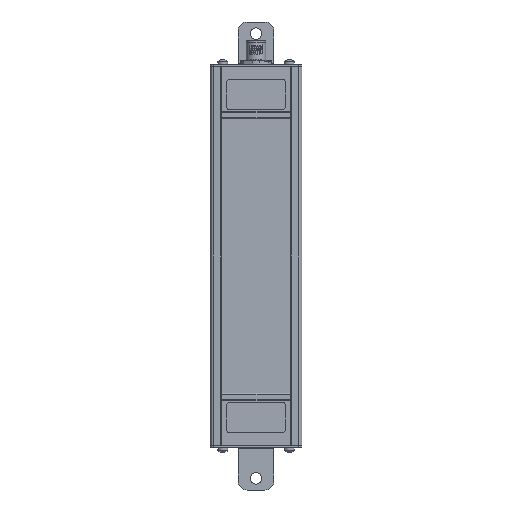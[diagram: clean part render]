
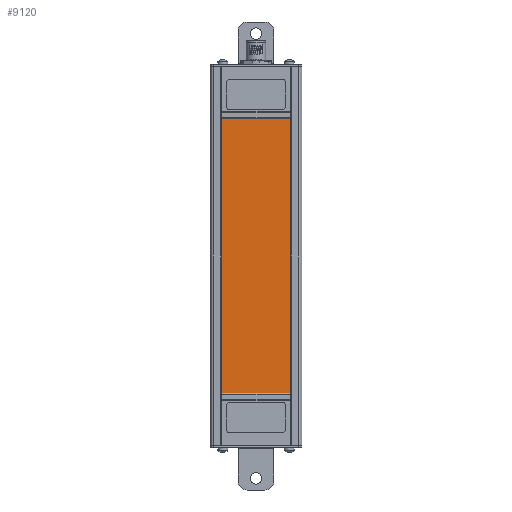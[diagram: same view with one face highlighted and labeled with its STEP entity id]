
A CAD part, front view. The second image highlights one B-rep face of the part: STEP entity #9120.
In plain terms, the highlighted planar face has unit normal (0, -1, 0).
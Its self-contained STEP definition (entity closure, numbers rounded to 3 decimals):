
#903 = CARTESIAN_POINT ( 'NONE',  ( -78.5, 0., -21. ) ) ;
#1054 = FACE_OUTER_BOUND ( 'NONE', #28438, .T. ) ;
#1358 = DIRECTION ( 'NONE',  ( 0., 0., -1. ) ) ;
#1671 = CARTESIAN_POINT ( 'NONE',  ( 78.5, 0., 21. ) ) ;
#1927 = LINE ( 'NONE', #10938, #20517 ) ;
#2127 = ORIENTED_EDGE ( 'NONE', *, *, #8943, .F. ) ;
#2854 = LINE ( 'NONE', #903, #15747 ) ;
#3876 = VERTEX_POINT ( 'NONE', #17640 ) ;
#7764 = LINE ( 'NONE', #16925, #12348 ) ;
#8130 = DIRECTION ( 'NONE',  ( 0., -1., 0. ) ) ;
#8943 = EDGE_CURVE ( 'NONE', #16525, #17227, #25964, .T. ) ;
#9120 = ADVANCED_FACE ( 'NONE', ( #1054 ), #15025, .T. ) ;
#10938 = CARTESIAN_POINT ( 'NONE',  ( -78.5, 0., 21. ) ) ;
#12348 = VECTOR ( 'NONE', #23985, 1000. ) ;
#14448 = ORIENTED_EDGE ( 'NONE', *, *, #17313, .F. ) ;
#14997 = DIRECTION ( 'NONE',  ( 1., 0., 0. ) ) ;
#15025 = PLANE ( 'NONE',  #21968 ) ;
#15747 = VECTOR ( 'NONE', #23712, 1000. ) ;
#15939 = CARTESIAN_POINT ( 'NONE',  ( -78.5, 0., 21. ) ) ;
#16217 = EDGE_CURVE ( 'NONE', #25149, #3876, #7764, .T. ) ;
#16525 = VERTEX_POINT ( 'NONE', #16588 ) ;
#16588 = CARTESIAN_POINT ( 'NONE',  ( -78.5, 0., -21. ) ) ;
#16925 = CARTESIAN_POINT ( 'NONE',  ( 78.5, 0., 21. ) ) ;
#17227 = VERTEX_POINT ( 'NONE', #15939 ) ;
#17313 = EDGE_CURVE ( 'NONE', #3876, #16525, #2854, .T. ) ;
#17640 = CARTESIAN_POINT ( 'NONE',  ( 78.5, 0., -21. ) ) ;
#19415 = EDGE_CURVE ( 'NONE', #17227, #25149, #1927, .T. ) ;
#19640 = VECTOR ( 'NONE', #21479, 1000. ) ;
#20517 = VECTOR ( 'NONE', #14997, 1000. ) ;
#21479 = DIRECTION ( 'NONE',  ( 0., 0., 1. ) ) ;
#21968 = AXIS2_PLACEMENT_3D ( 'NONE', #24330, #8130, #1358 ) ;
#23712 = DIRECTION ( 'NONE',  ( -1., 0., 0. ) ) ;
#23985 = DIRECTION ( 'NONE',  ( 0., 0., -1. ) ) ;
#24330 = CARTESIAN_POINT ( 'NONE',  ( 78.5, 0., -21. ) ) ;
#24517 = ORIENTED_EDGE ( 'NONE', *, *, #16217, .F. ) ;
#25149 = VERTEX_POINT ( 'NONE', #1671 ) ;
#25964 = LINE ( 'NONE', #28366, #19640 ) ;
#27100 = ORIENTED_EDGE ( 'NONE', *, *, #19415, .F. ) ;
#28366 = CARTESIAN_POINT ( 'NONE',  ( -78.5, 0., 21. ) ) ;
#28438 = EDGE_LOOP ( 'NONE', ( #24517, #27100, #2127, #14448 ) ) ;
